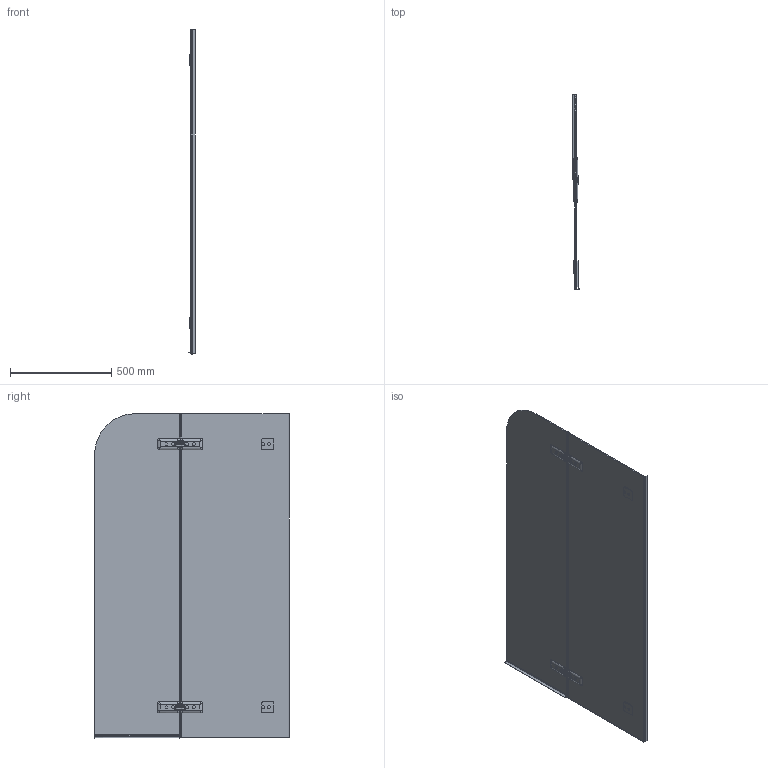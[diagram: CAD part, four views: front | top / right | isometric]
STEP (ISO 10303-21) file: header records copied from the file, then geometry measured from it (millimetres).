
FILE_DESCRIPTION(/* description */ (''),/* implementation_level */ '2;1');
FILE_NAME(/* name */ 'D:\4\!!!!\TREND PEARL GV-862-2722\TREND PEARL GV-862-2722 левая модель\TREND PEARL GV-862-2722 ЛЕВАЯ-3D.stp',/* time_stamp */ '2018-03-12T14:33:39+03:00',/* author */ ('ChechurovS'),/* organization */ (''),/* preprocessor_version */ 'ST-DEVELOPER v15.2',/* originating_system */ 'Autodesk Inventor 2014',/* authorisation */ '');
FILE_SCHEMA (('CONFIG_CONTROL_DESIGN'));
Products named in the file (1): TREND PEARL GV-862-2722 ЛЕВАЯ-3
D
Bounding box: 34.04 x 962.36 x 1603.4 mm (x, y, z)
Volume: 9737206.9 mm3; surface area: 3322984.3 mm2
Topology: 1 solids, 1 shells, 975 faces, 2652 edges, 1689 vertices
Faces by surface type: plane 587, cylinder 242, bspline 102, cone 20, sphere 12, torus 12
Full cylindrical faces by diameter (mm): 6 x4, 9 x8, 13 x4
Entity records: 46724 total; most frequent: CARTESIAN_POINT 21487, ORIENTED_EDGE 5152, DIRECTION 4864, EDGE_CURVE 2576, VERTEX_POINT 1677, AXIS2_PLACEMENT_3D 1642, LINE 1580, VECTOR 1580
